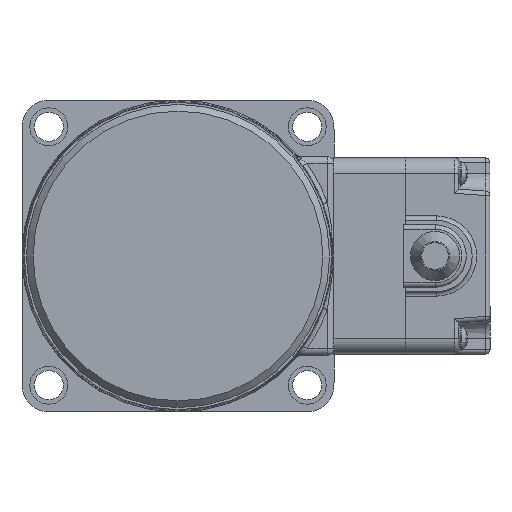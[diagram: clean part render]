
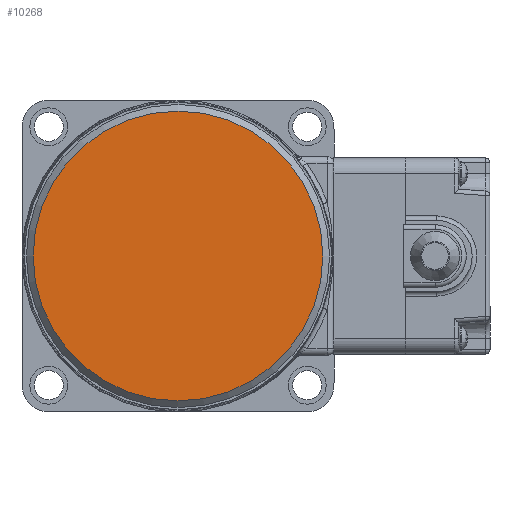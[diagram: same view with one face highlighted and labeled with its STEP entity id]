
A CAD part, left-side view. The second image highlights one B-rep face of the part: STEP entity #10268.
In plain terms, the highlighted planar face has unit normal (-1, 0, 0).
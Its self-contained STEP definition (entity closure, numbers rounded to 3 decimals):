
#2605=FACE_OUTER_BOUND('',#3226,.T.);
#3226=EDGE_LOOP('',(#8542));
#3788=CIRCLE('',#11267,32.5);
#4620=VERTEX_POINT('',#17652);
#5966=EDGE_CURVE('',#4620,#4620,#3788,.T.);
#8542=ORIENTED_EDGE('',*,*,#5966,.F.);
#9203=PLANE('',#11266);
#10268=ADVANCED_FACE('',(#2605),#9203,.T.);
#11266=AXIS2_PLACEMENT_3D('',#17651,#13907,#13908);
#11267=AXIS2_PLACEMENT_3D('',#17653,#13909,#13910);
#13907=DIRECTION('center_axis',(-1.,0.,0.));
#13908=DIRECTION('ref_axis',(0.,0.,1.));
#13909=DIRECTION('center_axis',(1.,0.,0.));
#13910=DIRECTION('ref_axis',(0.,1.,0.));
#17651=CARTESIAN_POINT('Origin',(0.,16.25,0.));
#17652=CARTESIAN_POINT('',(0.,32.5,0.));
#17653=CARTESIAN_POINT('Origin',(0.,0.,
0.));
